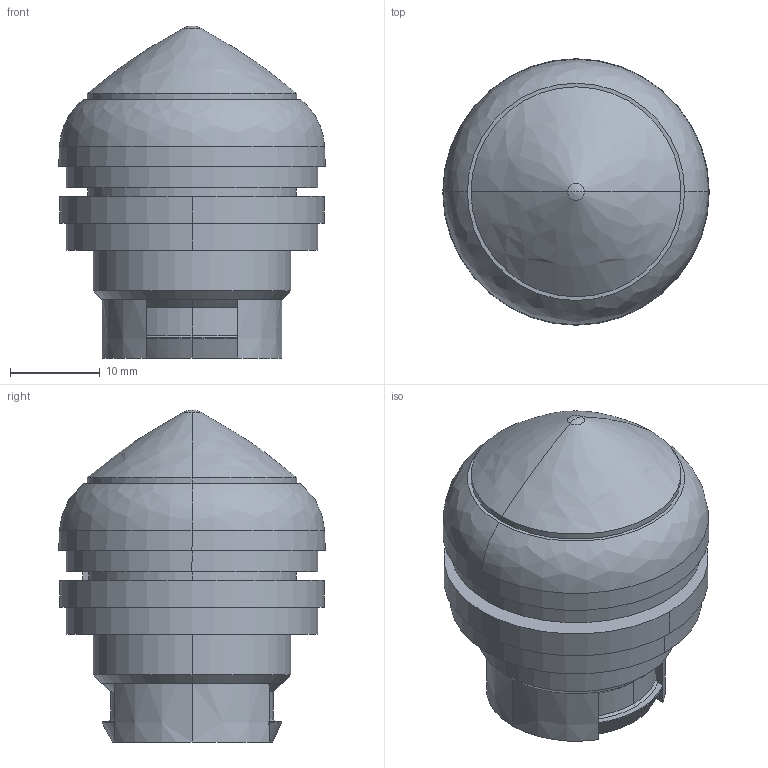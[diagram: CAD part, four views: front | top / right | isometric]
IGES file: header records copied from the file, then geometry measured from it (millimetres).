
Start section: Data from XPlus IGES,  Spatial Corp. Copyright (c) 1999-2004
Global section: file name: 216778.igs; native system:  By Spatial Corp.; preprocessor: XPlus ACIS/IGES 3.0; author: Noname; organization: Noname; date: 20120615.171432; units: millimetre
Bounding box: 29.7 x 29.7 x 37 mm (x, y, z)
Surface area: 4170.7 mm2 (no closed solid volume)
Topology: 0 solids, 0 shells, 65 faces, 308 edges, 306 vertices
Faces by surface type: revolution 41, extrusion 24
